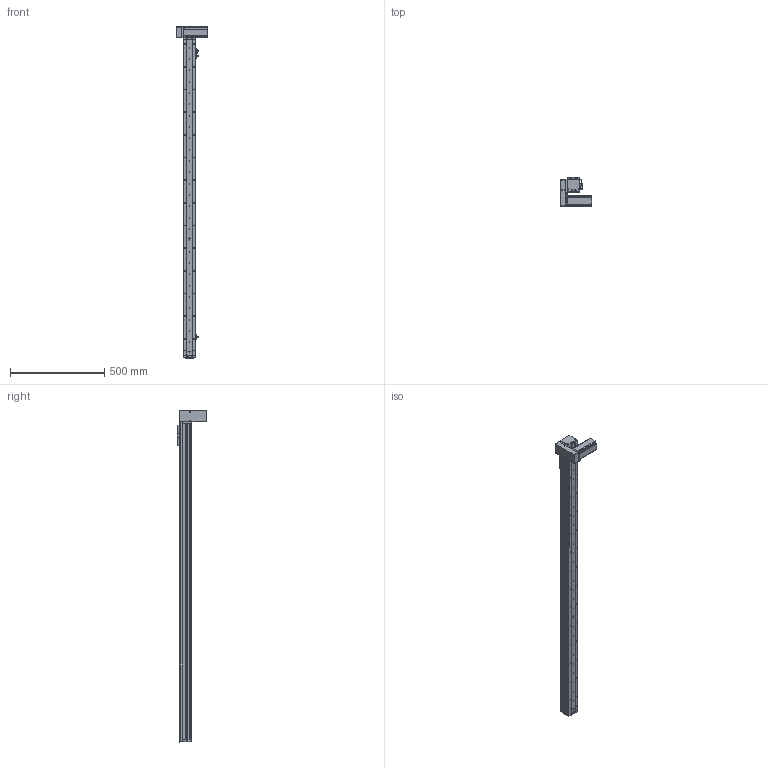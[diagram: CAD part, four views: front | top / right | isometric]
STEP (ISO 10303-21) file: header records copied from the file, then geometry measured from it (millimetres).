
FILE_DESCRIPTION (( 'STEP AP203' ), '1' );
FILE_NAME ('KSD68BS-S1500-MRD-CR.STEP', '2019-08-28T02:44:29', ( '微软用户' ), ( '微软中国' ), 'SwSTEP 2.0', 'SolidWorks 2014', '' );
FILE_SCHEMA (( 'CONFIG_CONTROL_DESIGN' ));
Length unit declared in the file: millimetre
Products named in the file (14): 68宽马达安装板连板上折同步带; KSD68BS-S1500-MRD-CR; 悵誘欶奻狟殏; 68单导轨全封闭同步带安装板; 68单导轨全封闭同步带电机座右; 68宽单导轨全封闭同步带端板; KSD68BS 1500行程底板全封闭; KSD68BS 1500行程侧板全封闭; 台达ECMA－C20604AS伺服电机（400W); 68宽单导轨全封闭丝杆传动安装板1防护罩; U倰嫖萇EEㄜSX672; 68遵裔啣揤啣1; 感应片68宽全封闭; KSD68BS 1500行程盖板全封闭
Assembly tree (17 placements, depth 2):
  KSD68BS-S1500-MRD-CR
    KSD68BS 1500行程底板全封闭
    台达ECMA－C20604AS伺服电机（400W)
    U倰嫖萇EEㄜSX672  x3
    感应片68宽全封闭
    68宽马达安装板连板上折同步带
    悵誘欶奻狟殏
    68单导轨全封闭同步带安装板
    68单导轨全封闭同步带电机座右
    68宽单导轨全封闭同步带端板
    KSD68BS 1500行程侧板全封闭  x2
    68宽单导轨全封闭丝杆传动安装板1防护罩
    68遵裔啣揤啣1  x2
    KSD68BS 1500行程盖板全封闭
Bounding box: 167.2 x 155.5 x 1758.1 mm (x, y, z)
Volume: 3210683.4 mm3; surface area: 1290013.8 mm2
Topology: 18 solids, 18 shells, 1602 faces, 4611 edges, 2937 vertices
Faces by surface type: cylinder 783, plane 631, cone 188
Entity records: 46573 total; most frequent: CARTESIAN_POINT 9031, DIRECTION 7763, ORIENTED_EDGE 7426, EDGE_CURVE 3713, AXIS2_PLACEMENT_3D 2827, VERTEX_POINT 2435, VECTOR 2109, LINE 2109
